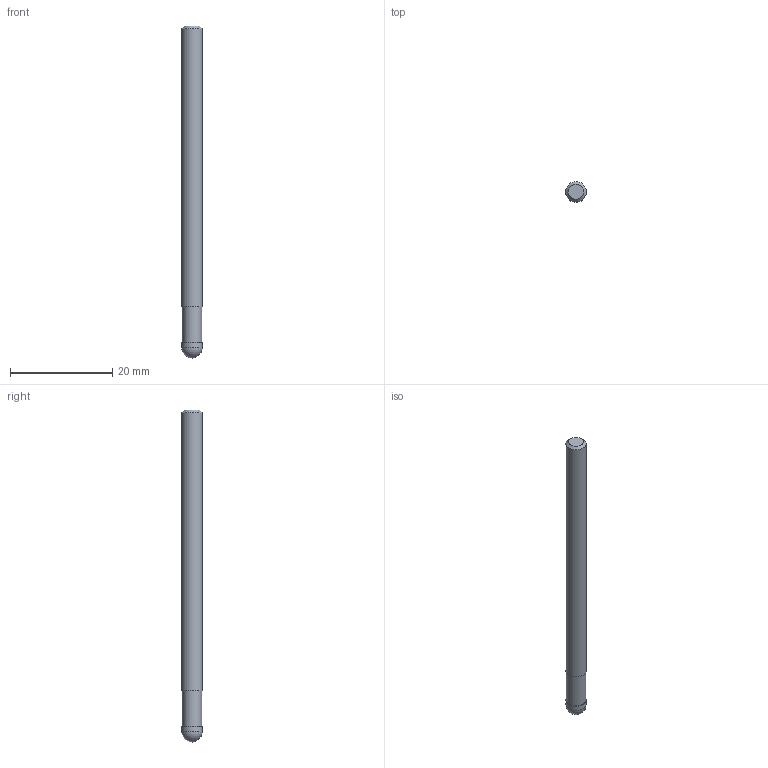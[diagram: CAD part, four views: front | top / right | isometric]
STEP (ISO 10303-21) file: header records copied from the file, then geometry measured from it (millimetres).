
FILE_DESCRIPTION((''),'2;1');
FILE_NAME('C:\Users\nsx150\AppData\Local\Temp\Mastercam 2021\ARV7HD45SN\TEMP.step','2023-06-13T16:39:00',(''),(''),'STEP Write','Mastercam 2021 ... CNC Software, Inc.','');
FILE_SCHEMA(('AUTOMOTIVE_DESIGN'));
Length unit declared in the file: millimetre
Products named in the file (1): None
Bounding box: 4 x 4 x 65 mm (x, y, z)
Volume: 798.4 mm3; surface area: 846.1 mm2
Topology: 2 solids, 2 shells, 9 faces, 13 edges, 8 vertices
Faces by surface type: plane 4, cylinder 3, sphere 1, cone 1
Full cylindrical faces by diameter (mm): 3.8 x1, 4 x2
Entity records: 211 total; most frequent: DIRECTION 36, CARTESIAN_POINT 25, AXIS2_PLACEMENT_3D 18, ORIENTED_EDGE 14, EDGE_LOOP 14, STYLED_ITEM 12, ADVANCED_FACE 9, FACE_BOUND 8
